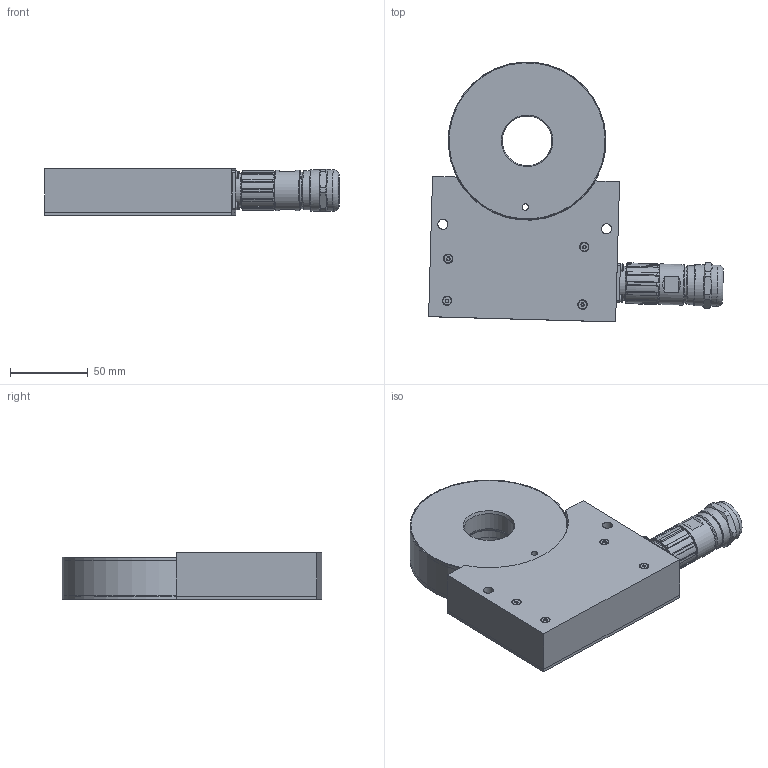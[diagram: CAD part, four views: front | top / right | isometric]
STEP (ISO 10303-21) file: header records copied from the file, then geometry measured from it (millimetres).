
FILE_DESCRIPTION(/* description */ (''),/* implementation_level */ '2;1');
FILE_NAME(/* name */ 'M:\__3D-Daten\Loeschen\Step\Baumer_MHAP100-B5-Z32_CAD.stp',/* time_stamp */ '2018-07-30T14:34:39+02:00',/* author */ ('mbir'),/* organization */ (''),/* preprocessor_version */ 'ST-DEVELOPER v16.1',/* originating_system */ 'Autodesk Inventor 2016',/* authorisation */ '');
FILE_SCHEMA (('AUTOMOTIVE_DESIGN { 1 0 10303 214 3 1 1 }'));
Length unit declared in the file: centimetre
Products named in the file (1): Baumer_MHAP100-B5-Z32_CAD
Bounding box: 189.09 x 166.68 x 30 mm (x, y, z)
Volume: 447891.4 mm3; surface area: 84348.1 mm2
Topology: 3 solids, 5 shells, 595 faces, 1414 edges, 910 vertices
Faces by surface type: cylinder 301, plane 198, torus 54, cone 42
Full cylindrical faces by diameter (mm): 2.9 x9, 3 x9, 3.2 x9, 4 x4, 4.1 x1, 4.5 x4, 5 x4, 5.5 x9, 6 x9, 6.5 x4, 7 x4, 8.5 x4, 12 x1, 17 x1, 17.3 x2, 19.8 x1, 20 x1, 21 x1, 21.8 x1, 22 x1, 22.8 x1, 23 x3, 23.2 x2, 23.541 x1, 25.001 x1, 26.001 x1, 26.5 x2, 32.008 x1, 32.2 x1, 54.5 x1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
Entity records: 16211 total; most frequent: DIRECTION 3023, CARTESIAN_POINT 2931, ORIENTED_EDGE 2350, AXIS2_PLACEMENT_3D 1313, EDGE_CURVE 1175, EDGE_LOOP 894, VERTEX_POINT 867, CIRCLE 687
